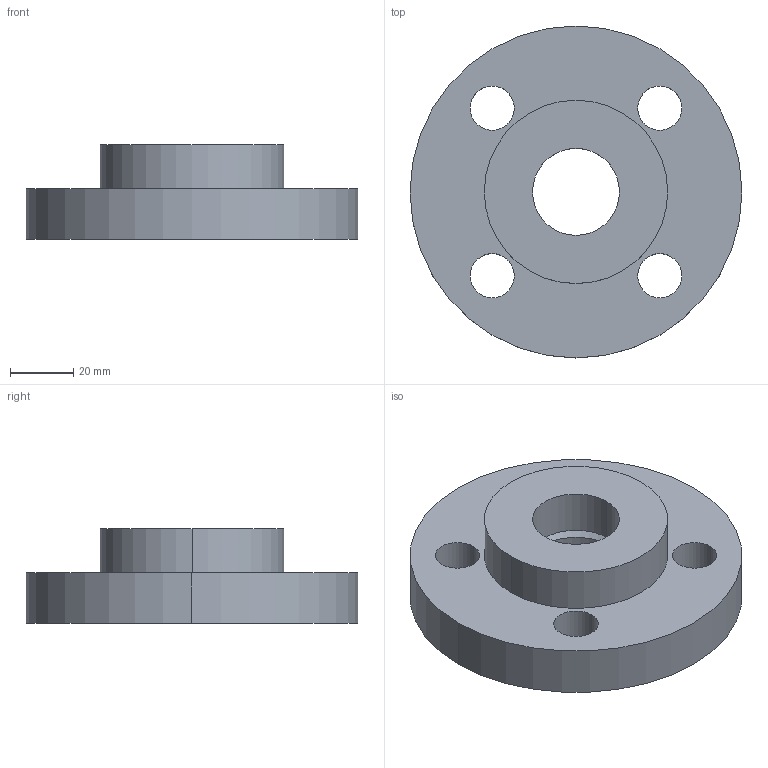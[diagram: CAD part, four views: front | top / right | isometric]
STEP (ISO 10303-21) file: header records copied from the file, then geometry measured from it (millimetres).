
FILE_DESCRIPTION (( 'STEP AP214' ), '1' );
FILE_NAME ('PN40 DN20 Type 02 in 32 - (Type A Face).STEP', '2018-12-29T18:28:44', ( '' ), ( '' ), 'SwSTEP 2.0', 'SolidWorks 2019', '' );
FILE_SCHEMA (( 'AUTOMOTIVE_DESIGN' ));
Length unit declared in the file: millimetre
Products named in the file (1): PN40 DN20 Type 02 in 32 - (Type A Face)
Bounding box: 105 x 105 x 30 mm (x, y, z)
Volume: 144443.5 mm3; surface area: 31877.3 mm2
Topology: 2 solids, 2 shells, 22 faces, 52 edges, 34 vertices
Faces by surface type: cylinder 16, plane 4, cone 2
Entity records: 721 total; most frequent: DIRECTION 132, CARTESIAN_POINT 109, ORIENTED_EDGE 104, AXIS2_PLACEMENT_3D 57, EDGE_CURVE 52, CIRCLE 34, EDGE_LOOP 34, VERTEX_POINT 34
